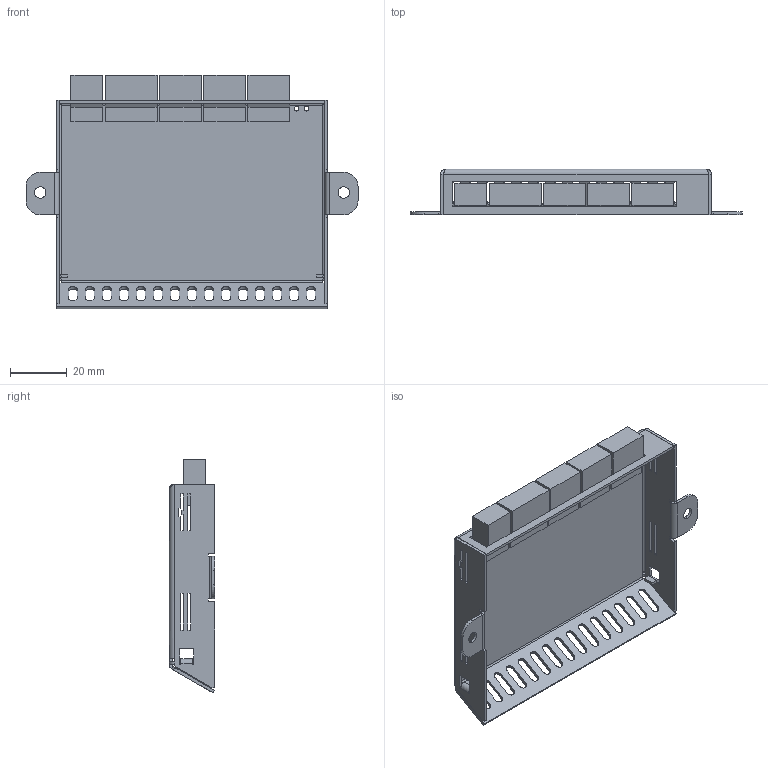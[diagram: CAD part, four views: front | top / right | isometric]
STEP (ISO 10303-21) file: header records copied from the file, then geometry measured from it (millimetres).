
FILE_DESCRIPTION (( 'STEP AP214' ), '1' );
FILE_NAME ('SIB061 Support.STEP', '2016-05-27T10:08:56', ( 'SIGMATEK GmbH & Co KG' ), ( 'SIGMATEK GmbH & Co KG' ), 'SwSTEP 2.0', 'SolidWorks 2015', '' );
FILE_SCHEMA (( 'AUTOMOTIVE_DESIGN' ));
Length unit declared in the file: millimetre
Products named in the file (5): Dummy_4110262104 4pol.Federkraftstecker f.2reih 1952283; Dummy_4110262173 5pol Stecker 1.5-6-st-3.5_1705390; Dummy_4110262171 3pol Stecker 1.5-6-st-3.5_1705386; ZExxxx-3741-x2 Abdeckung Safety Box; SIB061 Support
Assembly tree (6 placements, depth 2):
  SIB061 Support
    ZExxxx-3741-x2 Abdeckung Safety Box
    Dummy_4110262171 3pol Stecker 1.5-6-st-3.5_1705386
    Dummy_4110262173 5pol Stecker 1.5-6-st-3.5_1705390
    Dummy_4110262104 4pol.Federkraftstecker f.2reih 1952283  x3
Bounding box: 117 x 16 x 82.43 mm (x, y, z)
Volume: 19087.3 mm3; surface area: 26402.2 mm2
Topology: 6 solids, 6 shells, 329 faces, 887 edges, 566 vertices
Faces by surface type: plane 232, cylinder 93, bspline 4
Entity records: 10261 total; most frequent: CARTESIAN_POINT 1899, ORIENTED_EDGE 1702, DIRECTION 1659, EDGE_CURVE 851, VECTOR 651, LINE 651, VERTEX_POINT 542, AXIS2_PLACEMENT_3D 504
